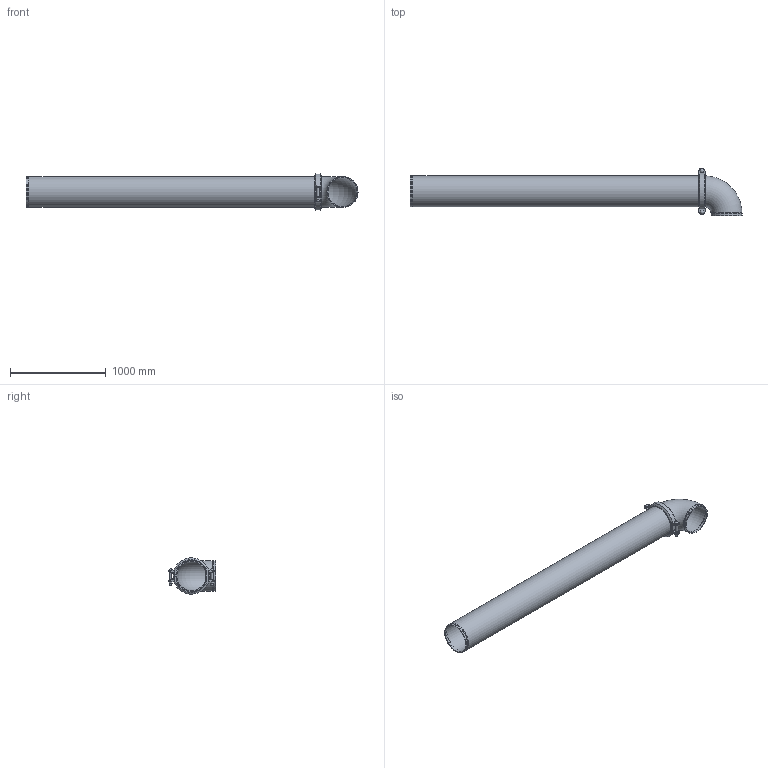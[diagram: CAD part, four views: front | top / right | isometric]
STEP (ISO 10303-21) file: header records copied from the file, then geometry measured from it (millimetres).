
FILE_DESCRIPTION(/* description */ ('VIC LONG RUN FITTING No R13 (OGS)','CAx-IF Rec.Pracs.---Representation and Presentation of Product Manufacturing Information (PMI)---4.0---2014-10-13'),/* implementation_level */ '2;1');
FILE_NAME(/* name */ 'C:\Users\Vjadhav\AppData\Roaming\Autodesk\ApplicationPlugins\Back Up\Victaulic_IPS_Long Run Fittings_No R13 (OGS)\Victaulic_IPS_Long Run Fittings_No R13 (OGS)_12 (300).stp',/* time_stamp */ '2020-10-06T18:27:00+06:00',/* author */ ('Vjadhav'),/* organization */ ('Victaulic'),/* preprocessor_version */ 'ST-DEVELOPER v17.2',/* originating_system */ 'Autodesk Inventor 2019',/* authorisation */ '');
FILE_SCHEMA (('AP242_MANAGED_MODEL_BASED_3D_ENGINEERING_MIM_LF { 1 0 10303 442 1 1 4 }'));
Length unit declared in the file: inch
Products named in the file (4): R13-12.0; 010-12.0; 107N-12.0; Pipe_R13-12.0
Assembly tree (3 placements, depth 2):
  R13-12.0
    010-12.0
    107N-12.0
    Pipe_R13-12.0
Bounding box: 3469.01 x 495.3 x 379.69 mm (x, y, z)
Volume: 34805311.3 mm3; surface area: 7160757.2 mm2
Topology: 3 solids, 3 shells, 145 faces, 359 edges, 240 vertices
Faces by surface type: plane 62, cylinder 59, bspline 16, cone 4, torus 2, sphere 2
Full cylindrical faces by diameter (mm): 22.225 x4, 37.694 x2, 304.8 x3, 311.15 x1, 318.287 x4, 323.85 x7
Entity records: 5524 total; most frequent: CARTESIAN_POINT 1635, DIRECTION 793, ORIENTED_EDGE 718, EDGE_CURVE 359, AXIS2_PLACEMENT_3D 310, VERTEX_POINT 240, EDGE_LOOP 175, LINE 173
